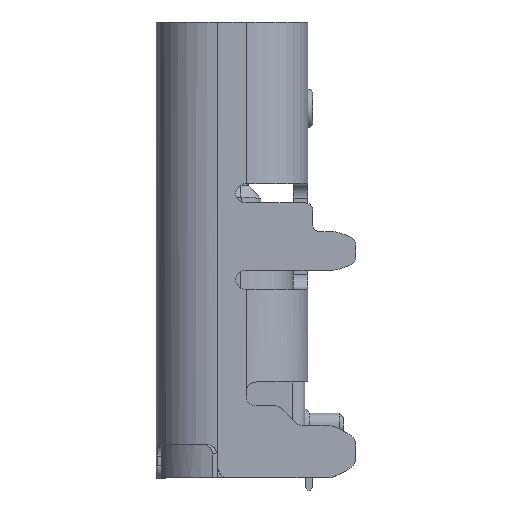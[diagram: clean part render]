
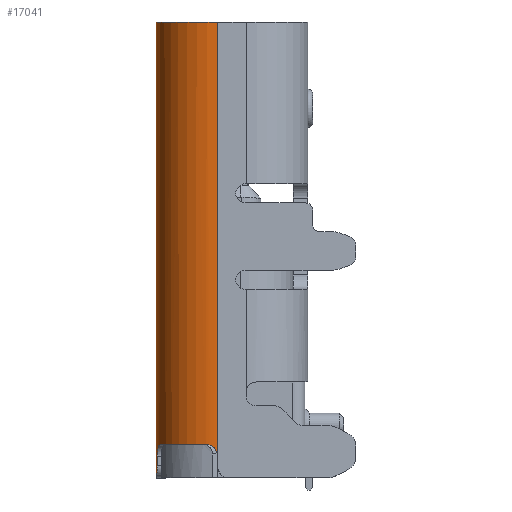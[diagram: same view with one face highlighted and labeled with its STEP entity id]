
A CAD part, left-side view. The second image highlights one B-rep face of the part: STEP entity #17041.
In plain terms, the highlighted cylindrical face has radius 1.28 mm (diameter 2.56 mm), a partial arc.
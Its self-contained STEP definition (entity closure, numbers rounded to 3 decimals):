
#1008=DIRECTION('',(0.,0.,1.));
#1009=VECTOR('',#1008,9.05);
#1010=CARTESIAN_POINT('',(0.,2.88,
-8.95));
#1011=LINE('',#1010,#1009);
#1266=CARTESIAN_POINT('',(1.28,2.88,-8.7));
#1267=DIRECTION('',(0.,0.,1.));
#1268=DIRECTION('',(-0.391,0.921,0.));
#1269=AXIS2_PLACEMENT_3D('',#1266,#1267,#1268);
#1824=CARTESIAN_POINT('',(1.28,2.88,0.1));
#1825=DIRECTION('',(0.,0.,-1.));
#1826=DIRECTION('',(-1.,0.,0.));
#1827=AXIS2_PLACEMENT_3D('',#1824,#1825,#1826);
#3665=DIRECTION('',(0.,0.,1.));
#3666=VECTOR('',#3665,9.5);
#3667=CARTESIAN_POINT('',(1.28,4.16,-9.4));
#3668=LINE('',#3667,#3666);
#3669=CARTESIAN_POINT('',(0.,2.88,
-8.95));
#3670=CARTESIAN_POINT('',(0.,2.88,
-8.927));
#3671=CARTESIAN_POINT('',(0.,2.886,
-8.884));
#3672=CARTESIAN_POINT('',(0.,2.912,
-8.822));
#3673=CARTESIAN_POINT('',(0.002,2.952,
-8.77));
#3674=CARTESIAN_POINT('',(0.006,3.004,
-8.731));
#3675=CARTESIAN_POINT('',(0.013,3.065,
-8.706));
#3676=CARTESIAN_POINT('',(0.02,3.108,
-8.7));
#3677=CARTESIAN_POINT('',(0.025,3.13,
-8.7));
#3679=CARTESIAN_POINT('',(0.78,4.058,
-8.7));
#3680=CARTESIAN_POINT('',(0.804,4.068,
-8.7));
#3681=CARTESIAN_POINT('',(0.849,4.086,
-8.707));
#3682=CARTESIAN_POINT('',(0.907,4.105,
-8.731));
#3683=CARTESIAN_POINT('',(0.961,4.12,
-8.773));
#3684=CARTESIAN_POINT('',(0.999,4.129,
-8.824));
#3685=CARTESIAN_POINT('',(1.025,4.134,-8.886));
#3686=CARTESIAN_POINT('',(1.03,4.135,-8.928));
#3687=CARTESIAN_POINT('',(1.03,4.135,-8.95));
#3689=DIRECTION('',(0.,0.,-1.));
#3690=VECTOR('',#3689,0.2);
#3691=CARTESIAN_POINT('',(1.03,4.135,-8.95));
#3692=LINE('',#3691,#3690);
#3707=CARTESIAN_POINT('',(1.28,4.16,-9.4));
#3708=CARTESIAN_POINT('',(1.259,4.16,-9.4));
#3709=CARTESIAN_POINT('',(1.215,4.159,-9.395));
#3710=CARTESIAN_POINT('',(1.154,4.154,-9.369));
#3711=CARTESIAN_POINT('',(1.101,4.148,-9.329));
#3712=CARTESIAN_POINT('',(1.061,4.141,-9.277));
#3713=CARTESIAN_POINT('',(1.036,4.136,-9.215));
#3714=CARTESIAN_POINT('',(1.03,4.135,-9.171));
#3715=CARTESIAN_POINT('',(1.03,4.135,-9.15));
#10238=CARTESIAN_POINT('',(1.28,4.16,0.1));
#10240=VERTEX_POINT('',#10238);
#10241=CARTESIAN_POINT('',(1.28,4.16,
-9.4));
#10242=VERTEX_POINT('',#10241);
#10527=CARTESIAN_POINT('',(0.,2.88,
0.1));
#10528=VERTEX_POINT('',#10527);
#10573=CARTESIAN_POINT('',(0.78,4.058,
-8.7));
#10574=VERTEX_POINT('',#10573);
#10575=CARTESIAN_POINT('',(0.025,3.13,
-8.7));
#10576=VERTEX_POINT('',#10575);
#11212=CARTESIAN_POINT('',(0.,2.88,
-8.95));
#11214=VERTEX_POINT('',#11212);
#11280=VERTEX_POINT('',#3687);
#11281=CARTESIAN_POINT('',(1.03,4.135,
-9.15));
#11282=VERTEX_POINT('',#11281);
#17023=CARTESIAN_POINT('',(1.28,2.88,-9.6));
#17024=DIRECTION('',(0.,0.,1.));
#17025=DIRECTION('',(1.,0.,0.));
#17026=AXIS2_PLACEMENT_3D('',#17023,#17024,#17025);
#17027=CYLINDRICAL_SURFACE('',#17026,1.28);
#17028=ORIENTED_EDGE('',*,*,#16877,.T.);
#17029=ORIENTED_EDGE('',*,*,#15118,.F.);
#17030=ORIENTED_EDGE('',*,*,#14056,.F.);
#17031=ORIENTED_EDGE('',*,*,#14157,.T.);
#17032=ORIENTED_EDGE('',*,*,#14259,.F.);
#17034=ORIENTED_EDGE('',*,*,#17033,.T.);
#17036=ORIENTED_EDGE('',*,*,#17035,.T.);
#17038=ORIENTED_EDGE('',*,*,#17037,.F.);
#17039=EDGE_LOOP('',(#17028,#17029,#17030,#17031,#17032,#17034,#17036,#17038));
#17040=FACE_OUTER_BOUND('',#17039,.F.);
#17041=ADVANCED_FACE('',(#17040),#17027,.T.);
#1270=CIRCLE('',#1269,1.28);
#1828=CIRCLE('',#1827,1.28);
#3678=B_SPLINE_CURVE_WITH_KNOTS('',3,(#3669,#3670,#3671,#3672,#3673,#3674,#3675,
#3676,#3677),.UNSPECIFIED.,.F.,.F.,(4,1,1,1,1,1,4),(0.,0.167,
0.333,0.5,0.667,0.833,1.),
.UNSPECIFIED.);
#3688=B_SPLINE_CURVE_WITH_KNOTS('',3,(#3679,#3680,#3681,#3682,#3683,#3684,#3685,
#3686,#3687),.UNSPECIFIED.,.F.,.F.,(4,1,1,1,1,1,4),(0.,0.167,
0.333,0.5,0.667,0.833,1.),
.UNSPECIFIED.);
#3716=B_SPLINE_CURVE_WITH_KNOTS('',3,(#3707,#3708,#3709,#3710,#3711,#3712,#3713,
#3714,#3715),.UNSPECIFIED.,.F.,.F.,(4,1,1,1,1,1,4),(0.,0.167,
0.333,0.5,0.667,0.833,1.),
.UNSPECIFIED.);
#14056=EDGE_CURVE('',#11214,#10528,#1011,.T.);
#14157=EDGE_CURVE('',#11214,#10576,#3678,.T.);
#14259=EDGE_CURVE('',#10574,#10576,#1270,.T.);
#15118=EDGE_CURVE('',#10528,#10240,#1828,.T.);
#16877=EDGE_CURVE('',#10242,#10240,#3668,.T.);
#17033=EDGE_CURVE('',#10574,#11280,#3688,.T.);
#17035=EDGE_CURVE('',#11280,#11282,#3692,.T.);
#17037=EDGE_CURVE('',#10242,#11282,#3716,.T.);
